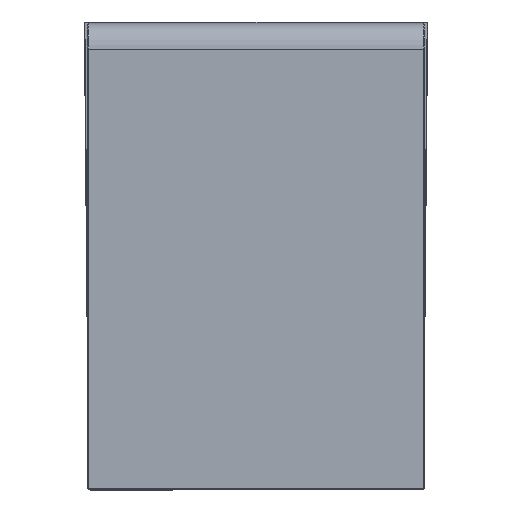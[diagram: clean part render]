
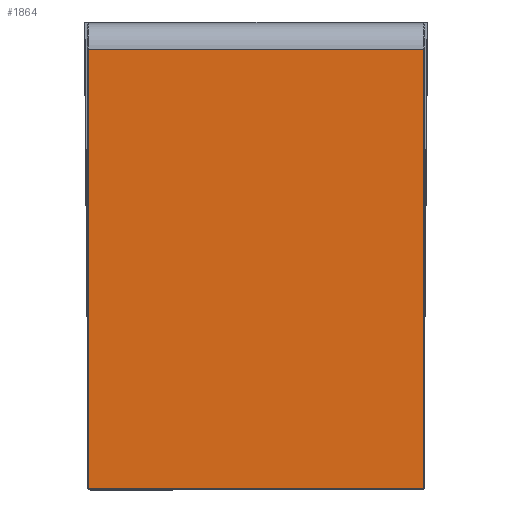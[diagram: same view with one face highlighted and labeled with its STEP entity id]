
A CAD part, top view. The second image highlights one B-rep face of the part: STEP entity #1864.
In plain terms, the highlighted planar face has unit normal (0, 0, 1).
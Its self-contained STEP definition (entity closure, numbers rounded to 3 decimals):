
#1663=CARTESIAN_POINT('',(6.,417.001,13.));
#1664=VERTEX_POINT('',#1663);
#1694=CARTESIAN_POINT('',(6.,-4.,13.));
#1695=VERTEX_POINT('',#1694);
#1704=CARTESIAN_POINT('',(6.,417.001,13.));
#1705=DIRECTION('',(0.0,-1.0,0.0));
#1706=VECTOR('',#1705,421.001);
#1707=LINE('',#1704,#1706);
#1708=EDGE_CURVE('',#1664,#1695,#1707,.T.);
#1718=CARTESIAN_POINT('',(4.,-6.,13.));
#1719=VERTEX_POINT('',#1718);
#1728=CARTESIAN_POINT('',(4.,-4.,13.));
#1729=DIRECTION('',(0.,0.,-1.0));
#1730=DIRECTION('',(0.707,-0.707,0.));
#1731=AXIS2_PLACEMENT_3D('',#1728,#1729,#1730);
#1732=CIRCLE('',#1731,2.);
#1733=EDGE_CURVE('',#1695,#1719,#1732,.T.);
#1743=CARTESIAN_POINT('',(-315.,-6.,13.));
#1744=VERTEX_POINT('',#1743);
#1753=CARTESIAN_POINT('',(4.,-6.,13.));
#1754=DIRECTION('',(-1.0,0.0,0.0));
#1755=VECTOR('',#1754,319.);
#1756=LINE('',#1753,#1755);
#1757=EDGE_CURVE('',#1719,#1744,#1756,.T.);
#1767=CARTESIAN_POINT('',(-317.,-4.,13.));
#1768=VERTEX_POINT('',#1767);
#1777=CARTESIAN_POINT('',(-315.,-4.,13.));
#1778=DIRECTION('',(0.,0.,-1.0));
#1779=DIRECTION('',(-0.707,-0.707,0.));
#1780=AXIS2_PLACEMENT_3D('',#1777,#1778,#1779);
#1781=CIRCLE('',#1780,2.);
#1782=EDGE_CURVE('',#1744,#1768,#1781,.T.);
#1792=CARTESIAN_POINT('',(-317.0,417.001,13.));
#1793=VERTEX_POINT('',#1792);
#1802=CARTESIAN_POINT('',(-317.0,-4.,13.));
#1803=DIRECTION('',(0.0,1.0,0.0));
#1804=VECTOR('',#1803,421.001);
#1805=LINE('',#1802,#1804);
#1806=EDGE_CURVE('',#1768,#1793,#1805,.T.);
#1846=CARTESIAN_POINT('',(-155.5,436.43,13.));
#1847=DIRECTION('',(0.0,0.0,1.0));
#1848=DIRECTION('',(0.0,1.0,0.0));
#1849=AXIS2_PLACEMENT_3D('',#1846,#1847,#1848);
#1850=PLANE('',#1849);
#1851=ORIENTED_EDGE('',*,*,#1806,.F.);
#1852=ORIENTED_EDGE('',*,*,#1782,.F.);
#1853=ORIENTED_EDGE('',*,*,#1757,.F.);
#1854=ORIENTED_EDGE('',*,*,#1733,.F.);
#1855=ORIENTED_EDGE('',*,*,#1708,.F.);
#1856=CARTESIAN_POINT('',(6.,417.001,13.));
#1857=DIRECTION('',(-1.0,0.0,0.0));
#1858=VECTOR('',#1857,323.);
#1859=LINE('',#1856,#1858);
#1860=EDGE_CURVE('',#1664,#1793,#1859,.T.);
#1861=ORIENTED_EDGE('',*,*,#1860,.T.);
#1862=EDGE_LOOP('',(#1851,#1852,#1853,#1854,#1855,#1861));
#1863=FACE_OUTER_BOUND('',#1862,.T.);
#1864=ADVANCED_FACE('',(#1863),#1850,.T.);
